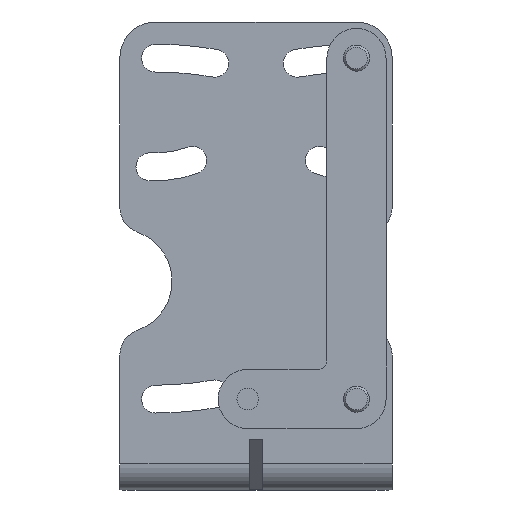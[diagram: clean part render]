
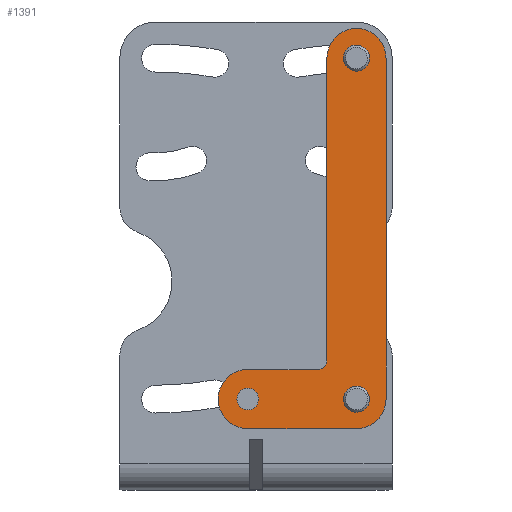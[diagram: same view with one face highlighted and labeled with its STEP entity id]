
A CAD part, left-side view. The second image highlights one B-rep face of the part: STEP entity #1391.
In plain terms, the highlighted planar face has unit normal (-1, 0, 0) as drawn and (0, -1, 0) by its records, which use the part's own axes.
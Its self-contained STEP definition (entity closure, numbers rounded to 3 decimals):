
#30 = FACE_BOUND ( 'NONE', #454, .T. ) ;
#49 = CIRCLE ( 'NONE', #566, 1.25 ) ;
#57 = DIRECTION ( 'NONE',  ( 0., 0., 1. ) ) ;
#127 = DIRECTION ( 'NONE',  ( 0., 1., 0. ) ) ;
#161 = EDGE_LOOP ( 'NONE', ( #3169, #3161, #1456, #1678, #1331, #2313, #1001, #1987, #2175 ) ) ;
#168 = CARTESIAN_POINT ( 'NONE',  ( 0., 0., 3.4 ) ) ;
#239 = VECTOR ( 'NONE', #2845, 1000. ) ;
#265 = CARTESIAN_POINT ( 'NONE',  ( 0., 0., 0. ) ) ;
#294 = CARTESIAN_POINT ( 'NONE',  ( 0., 0., -39.2 ) ) ;
#370 = VECTOR ( 'NONE', #3623, 1000. ) ;
#381 = CARTESIAN_POINT ( 'NONE',  ( 12.5, 0., -3.4 ) ) ;
#384 = CARTESIAN_POINT ( 'NONE',  ( 0., 0., -40.45 ) ) ;
#414 = LINE ( 'NONE', #2828, #1641 ) ;
#418 = CARTESIAN_POINT ( 'NONE',  ( 0., 0., -37.95 ) ) ;
#454 = EDGE_LOOP ( 'NONE', ( #1727, #2576 ) ) ;
#501 = EDGE_CURVE ( 'NONE', #1152, #2260, #2885, .T. ) ;
#514 = CARTESIAN_POINT ( 'NONE',  ( 3.4, 0., -39.2 ) ) ;
#540 = VERTEX_POINT ( 'NONE', #2634 ) ;
#566 = AXIS2_PLACEMENT_3D ( 'NONE', #265, #3591, #567 ) ;
#567 = DIRECTION ( 'NONE',  ( 0., 0., 1. ) ) ;
#573 = ORIENTED_EDGE ( 'NONE', *, *, #3568, .T. ) ;
#593 = AXIS2_PLACEMENT_3D ( 'NONE', #2548, #127, #3379 ) ;
#627 = CARTESIAN_POINT ( 'NONE',  ( 0., 0., -1.25 ) ) ;
#629 = DIRECTION ( 'NONE',  ( 0., 0., -1. ) ) ;
#642 = ORIENTED_EDGE ( 'NONE', *, *, #3786, .T. ) ;
#753 = DIRECTION ( 'NONE',  ( 0., 0., -1. ) ) ;
#807 = EDGE_CURVE ( 'NONE', #1592, #3590, #3676, .T. ) ;
#822 = CARTESIAN_POINT ( 'NONE',  ( 0., 0., 0. ) ) ;
#826 = DIRECTION ( 'NONE',  ( 0., 0., 1. ) ) ;
#857 = CARTESIAN_POINT ( 'NONE',  ( 0., 0., -3.4 ) ) ;
#937 = EDGE_CURVE ( 'NONE', #3613, #3144, #1277, .T. ) ;
#952 = CARTESIAN_POINT ( 'NONE',  ( 0., 0., 0. ) ) ;
#1001 = ORIENTED_EDGE ( 'NONE', *, *, #3537, .T. ) ;
#1037 = DIRECTION ( 'NONE',  ( 0., 1., 0. ) ) ;
#1067 = LINE ( 'NONE', #514, #3083 ) ;
#1076 = CARTESIAN_POINT ( 'NONE',  ( 0., 0., -39.2 ) ) ;
#1104 = DIRECTION ( 'NONE',  ( 0., 0., 1. ) ) ;
#1116 = VERTEX_POINT ( 'NONE', #384 ) ;
#1121 = DIRECTION ( 'NONE',  ( 0., 1., 0. ) ) ;
#1152 = VERTEX_POINT ( 'NONE', #2802 ) ;
#1236 = VERTEX_POINT ( 'NONE', #168 ) ;
#1277 = CIRCLE ( 'NONE', #3485, 3.4 ) ;
#1300 = DIRECTION ( 'NONE',  ( 0., 1., 0. ) ) ;
#1331 = ORIENTED_EDGE ( 'NONE', *, *, #3342, .F. ) ;
#1366 = CIRCLE ( 'NONE', #2181, 3.4 ) ;
#1391 = ADVANCED_FACE ( 'NONE', ( #2709, #30, #2448, #3884 ), #2694, .F. ) ;
#1456 = ORIENTED_EDGE ( 'NONE', *, *, #937, .F. ) ;
#1540 = AXIS2_PLACEMENT_3D ( 'NONE', #3516, #2861, #1104 ) ;
#1550 = AXIS2_PLACEMENT_3D ( 'NONE', #2189, #3389, #1886 ) ;
#1588 = VERTEX_POINT ( 'NONE', #2961 ) ;
#1592 = VERTEX_POINT ( 'NONE', #627 ) ;
#1594 = CARTESIAN_POINT ( 'NONE',  ( 0., 0., -39.2 ) ) ;
#1616 = CARTESIAN_POINT ( 'NONE',  ( 12.5, 0., 0. ) ) ;
#1641 = VECTOR ( 'NONE', #2554, 1000. ) ;
#1664 = DIRECTION ( 'NONE',  ( 0., 1., 0. ) ) ;
#1678 = ORIENTED_EDGE ( 'NONE', *, *, #3829, .F. ) ;
#1727 = ORIENTED_EDGE ( 'NONE', *, *, #2287, .T. ) ;
#1735 = AXIS2_PLACEMENT_3D ( 'NONE', #1076, #1121, #2615 ) ;
#1825 = EDGE_LOOP ( 'NONE', ( #573, #3689 ) ) ;
#1836 = EDGE_CURVE ( 'NONE', #3826, #3447, #2677, .T. ) ;
#1886 = DIRECTION ( 'NONE',  ( 0., 0., 1. ) ) ;
#1987 = ORIENTED_EDGE ( 'NONE', *, *, #1836, .T. ) ;
#1993 = ORIENTED_EDGE ( 'NONE', *, *, #501, .T. ) ;
#2003 = DIRECTION ( 'NONE',  ( 0., 0., 1. ) ) ;
#2118 = CIRCLE ( 'NONE', #3501, 3.4 ) ;
#2120 = CIRCLE ( 'NONE', #2935, 1.25 ) ;
#2124 = DIRECTION ( 'NONE',  ( 0., 1., 0. ) ) ;
#2175 = ORIENTED_EDGE ( 'NONE', *, *, #3041, .T. ) ;
#2181 = AXIS2_PLACEMENT_3D ( 'NONE', #1594, #1300, #2223 ) ;
#2189 = CARTESIAN_POINT ( 'NONE',  ( 4.4, 0., -4.4 ) ) ;
#2223 = DIRECTION ( 'NONE',  ( 0., 0., -1. ) ) ;
#2260 = VERTEX_POINT ( 'NONE', #3424 ) ;
#2281 = VERTEX_POINT ( 'NONE', #2846 ) ;
#2287 = EDGE_CURVE ( 'NONE', #2708, #1116, #2486, .T. ) ;
#2306 = CIRCLE ( 'NONE', #1550, 1. ) ;
#2313 = ORIENTED_EDGE ( 'NONE', *, *, #3812, .T. ) ;
#2448 = FACE_BOUND ( 'NONE', #1825, .T. ) ;
#2458 = CARTESIAN_POINT ( 'NONE',  ( 3.4, 0., -39.2 ) ) ;
#2486 = CIRCLE ( 'NONE', #593, 1.25 ) ;
#2548 = CARTESIAN_POINT ( 'NONE',  ( 0., 0., -39.2 ) ) ;
#2554 = DIRECTION ( 'NONE',  ( -1., 0., 0. ) ) ;
#2567 = AXIS2_PLACEMENT_3D ( 'NONE', #3264, #2966, #826 ) ;
#2576 = ORIENTED_EDGE ( 'NONE', *, *, #2842, .T. ) ;
#2611 = EDGE_CURVE ( 'NONE', #1588, #1236, #2118, .T. ) ;
#2615 = DIRECTION ( 'NONE',  ( 0., 0., 1. ) ) ;
#2634 = CARTESIAN_POINT ( 'NONE',  ( 3.4, 0., -4.4 ) ) ;
#2677 = CIRCLE ( 'NONE', #1540, 3.4 ) ;
#2694 = PLANE ( 'NONE',  #3238 ) ;
#2708 = VERTEX_POINT ( 'NONE', #418 ) ;
#2709 = FACE_BOUND ( 'NONE', #3137, .T. ) ;
#2739 = CARTESIAN_POINT ( 'NONE',  ( 0., 0., -42.6 ) ) ;
#2754 = CARTESIAN_POINT ( 'NONE',  ( 12.5, 0., 3.4 ) ) ;
#2778 = DIRECTION ( 'NONE',  ( 0., 1., 0. ) ) ;
#2792 = AXIS2_PLACEMENT_3D ( 'NONE', #822, #1664, #2003 ) ;
#2793 = CARTESIAN_POINT ( 'NONE',  ( 0., 0., 0. ) ) ;
#2802 = CARTESIAN_POINT ( 'NONE',  ( 12.5, 0., -1.25 ) ) ;
#2804 = CIRCLE ( 'NONE', #1735, 1.25 ) ;
#2828 = CARTESIAN_POINT ( 'NONE',  ( 0., 0., 3.4 ) ) ;
#2842 = EDGE_CURVE ( 'NONE', #1116, #2708, #2804, .T. ) ;
#2845 = DIRECTION ( 'NONE',  ( 0., 0., 1. ) ) ;
#2846 = CARTESIAN_POINT ( 'NONE',  ( 4.4, 0., -3.4 ) ) ;
#2861 = DIRECTION ( 'NONE',  ( 0., -1., 0. ) ) ;
#2885 = CIRCLE ( 'NONE', #2567, 1.25 ) ;
#2887 = LINE ( 'NONE', #3815, #239 ) ;
#2935 = AXIS2_PLACEMENT_3D ( 'NONE', #1616, #2778, #57 ) ;
#2961 = CARTESIAN_POINT ( 'NONE',  ( -3.4, 0., 0. ) ) ;
#2966 = DIRECTION ( 'NONE',  ( 0., 1., 0. ) ) ;
#3041 = EDGE_CURVE ( 'NONE', #3447, #1236, #414, .T. ) ;
#3045 = LINE ( 'NONE', #857, #370 ) ;
#3083 = VECTOR ( 'NONE', #753, 1000. ) ;
#3137 = EDGE_LOOP ( 'NONE', ( #642, #1993 ) ) ;
#3144 = VERTEX_POINT ( 'NONE', #3162 ) ;
#3161 = ORIENTED_EDGE ( 'NONE', *, *, #3310, .F. ) ;
#3162 = CARTESIAN_POINT ( 'NONE',  ( -3.4, 0., -39.2 ) ) ;
#3169 = ORIENTED_EDGE ( 'NONE', *, *, #2611, .F. ) ;
#3238 = AXIS2_PLACEMENT_3D ( 'NONE', #952, #2124, #3318 ) ;
#3264 = CARTESIAN_POINT ( 'NONE',  ( 12.5, 0., 0. ) ) ;
#3310 = EDGE_CURVE ( 'NONE', #3144, #1588, #2887, .T. ) ;
#3318 = DIRECTION ( 'NONE',  ( 0., 0., 1. ) ) ;
#3332 = DIRECTION ( 'NONE',  ( 0., 1., 0. ) ) ;
#3342 = EDGE_CURVE ( 'NONE', #540, #3729, #1067, .T. ) ;
#3347 = CARTESIAN_POINT ( 'NONE',  ( 0., 0., 1.25 ) ) ;
#3379 = DIRECTION ( 'NONE',  ( 0., 0., 1. ) ) ;
#3389 = DIRECTION ( 'NONE',  ( 0., 1., 0. ) ) ;
#3424 = CARTESIAN_POINT ( 'NONE',  ( 12.5, 0., 1.25 ) ) ;
#3447 = VERTEX_POINT ( 'NONE', #2754 ) ;
#3485 = AXIS2_PLACEMENT_3D ( 'NONE', #294, #3332, #629 ) ;
#3501 = AXIS2_PLACEMENT_3D ( 'NONE', #2793, #1037, #3684 ) ;
#3516 = CARTESIAN_POINT ( 'NONE',  ( 12.5, 0., 0. ) ) ;
#3537 = EDGE_CURVE ( 'NONE', #2281, #3826, #3045, .T. ) ;
#3568 = EDGE_CURVE ( 'NONE', #3590, #1592, #49, .T. ) ;
#3590 = VERTEX_POINT ( 'NONE', #3347 ) ;
#3591 = DIRECTION ( 'NONE',  ( 0., 1., 0. ) ) ;
#3613 = VERTEX_POINT ( 'NONE', #2739 ) ;
#3623 = DIRECTION ( 'NONE',  ( 1., 0., 0. ) ) ;
#3676 = CIRCLE ( 'NONE', #2792, 1.25 ) ;
#3684 = DIRECTION ( 'NONE',  ( 0., 0., 1. ) ) ;
#3689 = ORIENTED_EDGE ( 'NONE', *, *, #807, .T. ) ;
#3729 = VERTEX_POINT ( 'NONE', #2458 ) ;
#3786 = EDGE_CURVE ( 'NONE', #2260, #1152, #2120, .T. ) ;
#3812 = EDGE_CURVE ( 'NONE', #540, #2281, #2306, .T. ) ;
#3815 = CARTESIAN_POINT ( 'NONE',  ( -3.4, 0., -39.2 ) ) ;
#3826 = VERTEX_POINT ( 'NONE', #381 ) ;
#3829 = EDGE_CURVE ( 'NONE', #3729, #3613, #1366, .T. ) ;
#3884 = FACE_OUTER_BOUND ( 'NONE', #161, .T. ) ;
